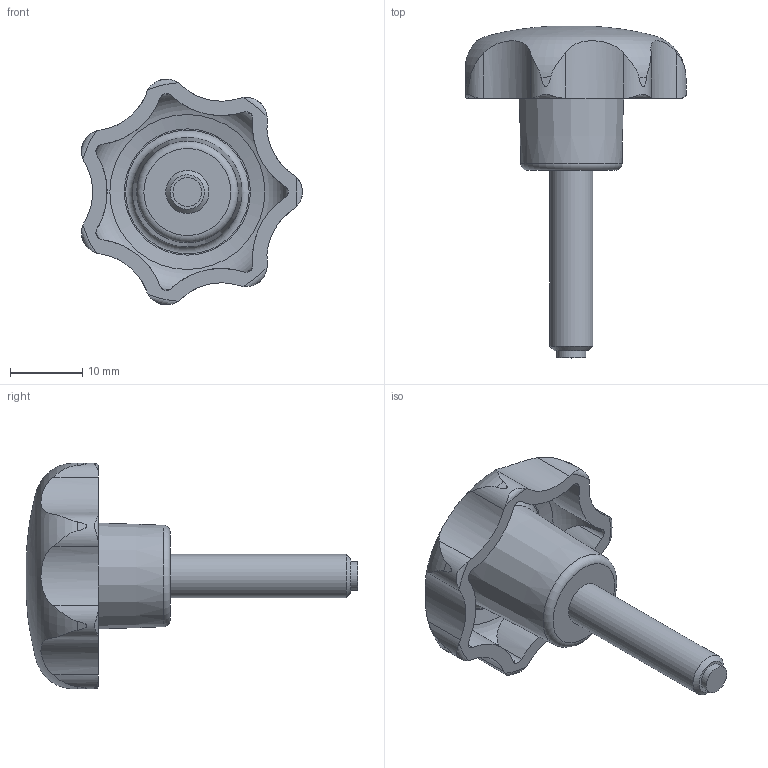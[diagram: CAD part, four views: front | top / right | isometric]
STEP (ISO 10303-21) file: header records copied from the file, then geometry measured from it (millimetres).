
FILE_DESCRIPTION( ( 'STEP AP203' ), '1' );
FILE_NAME( 'C:/Temp/Ganter_Step_05_03_2020/data/2_2/gn6336_10/Star knob GN 6336.10-32-M6-25-MS.stp', '2020-03-05T12:04:09', ( 'License CC BY-ND 4.0' ), ( 'CADENAS' ), ' ', 'PARTsolutions', ' ' );
FILE_SCHEMA( ( 'CONFIG_CONTROL_DESIGN' ) );
Length unit declared in the file: millimetre
Products named in the file (1): _Star knob GN 6336.10-32-M6-25-MS
Bounding box: 30.63 x 46.02 x 31.27 mm (x, y, z)
Volume: 6105.6 mm3; surface area: 3776 mm2
Topology: 1 solids, 1 shells, 65 faces, 189 edges, 128 vertices
Faces by surface type: cylinder 30, cone 17, torus 13, plane 4, bspline 1
Full cylindrical faces by diameter (mm): 4 x1, 6 x1
Entity records: 3035 total; most frequent: CARTESIAN_POINT 1421, ORIENTED_EDGE 348, DIRECTION 296, EDGE_CURVE 174, AXIS2_PLACEMENT_3D 134, VERTEX_POINT 125, EDGE_LOOP 78, B_SPLINE_CURVE_WITH_KNOTS 77
